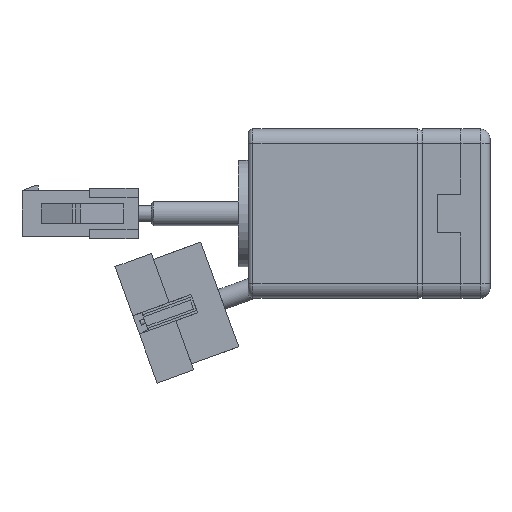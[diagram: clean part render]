
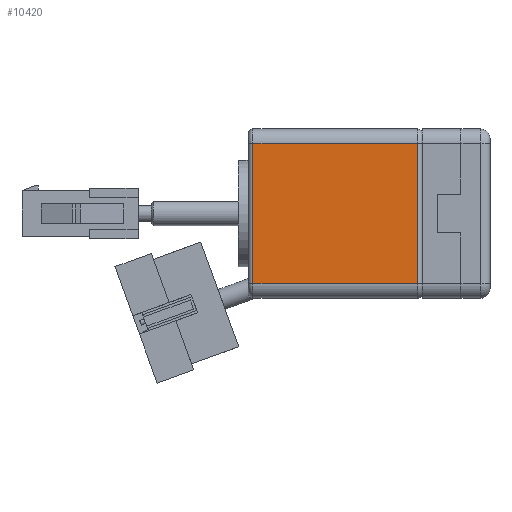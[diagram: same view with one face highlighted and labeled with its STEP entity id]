
A CAD part, front view. The second image highlights one B-rep face of the part: STEP entity #10420.
In plain terms, the highlighted planar face has unit normal (0, -1, 0).
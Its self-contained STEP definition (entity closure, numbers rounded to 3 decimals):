
#767 = CARTESIAN_POINT ( 'NONE',  ( 35., 0., 0. ) ) ;
#938 = ORIENTED_EDGE ( 'NONE', *, *, #4568, .T. ) ;
#1139 = VERTEX_POINT ( 'NONE', #5854 ) ;
#1196 = DIRECTION ( 'NONE',  ( 0., 0., 1. ) ) ;
#1227 = CARTESIAN_POINT ( 'NONE',  ( 1., 0., -3. ) ) ;
#1254 = EDGE_CURVE ( 'NONE', #4271, #1139, #17143, .T. ) ;
#2310 = EDGE_CURVE ( 'NONE', #15014, #4271, #9990, .T. ) ;
#2576 = CARTESIAN_POINT ( 'NONE',  ( 36., 0., -32. ) ) ;
#2950 = CARTESIAN_POINT ( 'NONE',  ( 36., 0., 0. ) ) ;
#2977 = CARTESIAN_POINT ( 'NONE',  ( 1., 0., -3. ) ) ;
#3400 = ORIENTED_EDGE ( 'NONE', *, *, #2310, .T. ) ;
#3966 = ORIENTED_EDGE ( 'NONE', *, *, #6835, .T. ) ;
#4024 = CARTESIAN_POINT ( 'NONE',  ( 35., 0., -3. ) ) ;
#4271 = VERTEX_POINT ( 'NONE', #15008 ) ;
#4568 = EDGE_CURVE ( 'NONE', #16768, #15014, #20318, .T. ) ;
#5854 = CARTESIAN_POINT ( 'NONE',  ( 35., 0., -32. ) ) ;
#6037 = CARTESIAN_POINT ( 'NONE',  ( 1., 0., 0. ) ) ;
#6835 = EDGE_CURVE ( 'NONE', #1139, #16768, #18816, .T. ) ;
#7479 = FACE_OUTER_BOUND ( 'NONE', #9856, .T. ) ;
#9856 = EDGE_LOOP ( 'NONE', ( #3966, #938, #3400, #21482 ) ) ;
#9990 = LINE ( 'NONE', #6037, #13683 ) ;
#10279 = PLANE ( 'NONE',  #16762 ) ;
#10420 = ADVANCED_FACE ( 'NONE', ( #7479 ), #10279, .F. ) ;
#12069 = DIRECTION ( 'NONE',  ( -1., 0., 0. ) ) ;
#12127 = DIRECTION ( 'NONE',  ( 0., 1., 0. ) ) ;
#13509 = DIRECTION ( 'NONE',  ( 0., 0., 1. ) ) ;
#13683 = VECTOR ( 'NONE', #20546, 1000. ) ;
#14569 = VECTOR ( 'NONE', #13509, 1000. ) ;
#15008 = CARTESIAN_POINT ( 'NONE',  ( 1., 0., -32. ) ) ;
#15014 = VERTEX_POINT ( 'NONE', #1227 ) ;
#16576 = VECTOR ( 'NONE', #17129, 1000. ) ;
#16762 = AXIS2_PLACEMENT_3D ( 'NONE', #2950, #12127, #1196 ) ;
#16768 = VERTEX_POINT ( 'NONE', #4024 ) ;
#17129 = DIRECTION ( 'NONE',  ( 1., 0., 0. ) ) ;
#17143 = LINE ( 'NONE', #2576, #16576 ) ;
#18816 = LINE ( 'NONE', #767, #14569 ) ;
#20318 = LINE ( 'NONE', #2977, #23384 ) ;
#20546 = DIRECTION ( 'NONE',  ( 0., 0., -1. ) ) ;
#21482 = ORIENTED_EDGE ( 'NONE', *, *, #1254, .T. ) ;
#23384 = VECTOR ( 'NONE', #12069, 1000. ) ;
